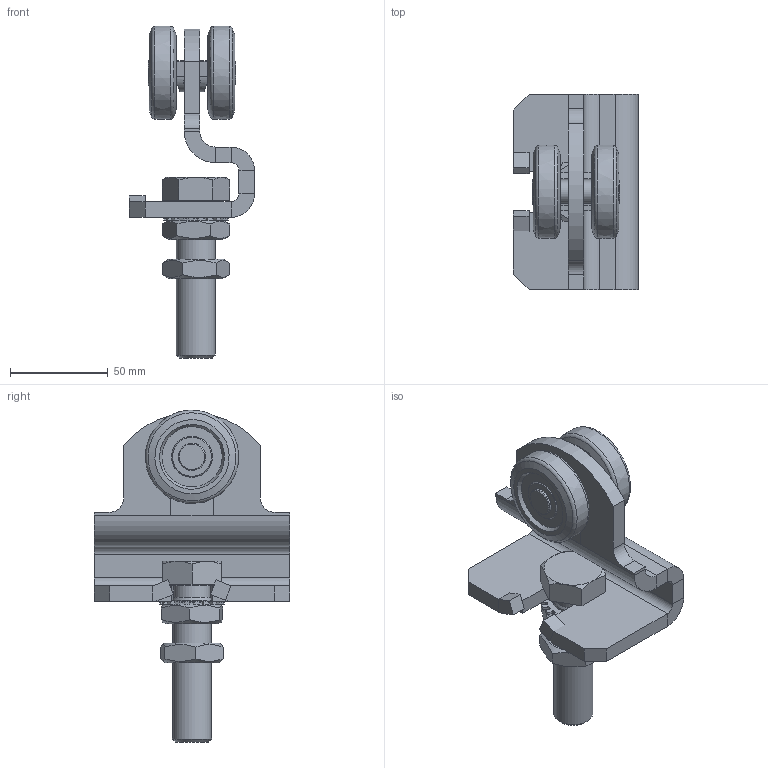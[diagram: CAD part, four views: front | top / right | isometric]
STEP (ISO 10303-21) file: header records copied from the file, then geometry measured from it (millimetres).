
FILE_DESCRIPTION(/* description */ ('Einfachrolle Nr.3 Amoniak'),/* implementation_level */ '2;1');
FILE_NAME(/* name */ 'D:\Public\STP\010336332-TP.stp',/* time_stamp */ '2020-05-13T14:59:03+02:00',/* author */ ('O. Loukota'),/* organization */ (''),/* preprocessor_version */ 'ST-DEVELOPER v17.2',/* originating_system */ 'Autodesk Inventor 2019',/* authorisation */ '');
FILE_SCHEMA (('AUTOMOTIVE_DESIGN { 1 0 10303 214 3 1 1 }'));
Length unit declared in the file: millimetre
Products named in the file (8): 010336332; 337000113; 000303237; 336290030; 000304012; DIN 6798 - A  21; DIN EN ISO 4017 - M20  x 80; DIN EN ISO 4035 - M20
Assembly tree (10 placements, depth 2):
  010336332
    337000113
    000303237  x2
    336290030  x2
    000304012
    DIN 6798 - A  21
    DIN EN ISO 4017 - M20  x 80
    DIN EN ISO 4035 - M20  x2
Bounding box: 64 x 100 x 169.95 mm (x, y, z)
Volume: 201878.4 mm3; surface area: 61294.2 mm2
Topology: 10 solids, 10 shells, 363 faces, 970 edges, 637 vertices
Faces by surface type: plane 193, cylinder 114, cone 34, bspline 18, torus 4
Full cylindrical faces by diameter (mm): 12 x3, 14 x1, 17.294 x2, 18.647 x1, 20 x1, 21 x1, 27.7 x1
Entity records: 10599 total; most frequent: CARTESIAN_POINT 2778, DIRECTION 1649, ORIENTED_EDGE 1572, EDGE_CURVE 786, AXIS2_PLACEMENT_3D 600, VERTEX_POINT 512, LINE 449, VECTOR 449
